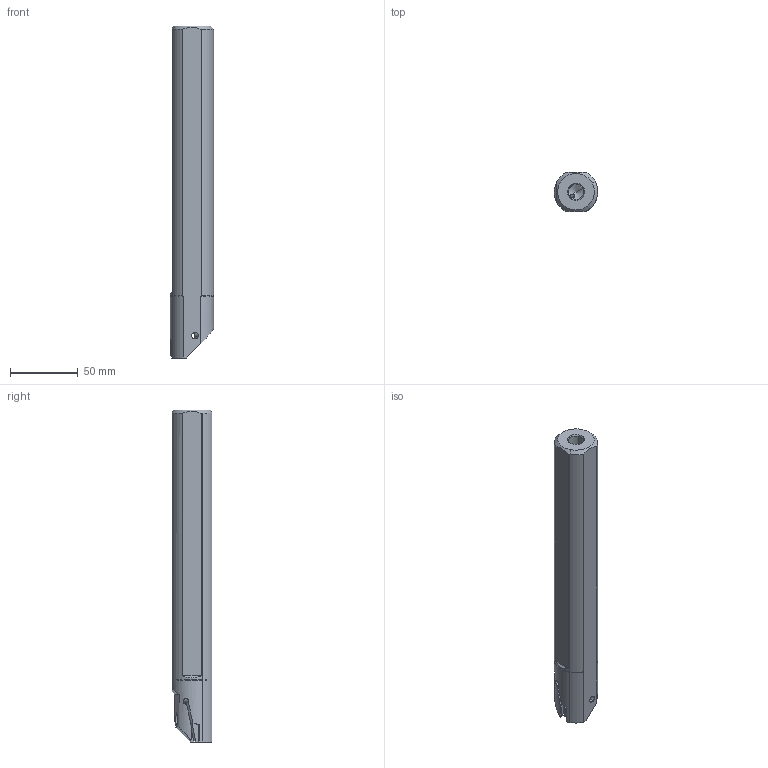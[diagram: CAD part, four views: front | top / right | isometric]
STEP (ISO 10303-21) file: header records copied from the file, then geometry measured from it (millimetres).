
FILE_DESCRIPTION(('CATIA V5 STEP','CAx-IF Rec.Pracs.--- Model Styling and Organization---1.2---2011-12-15'),'2;1');
FILE_NAME('I:\isr\design\admin8\users\weaam_s\2500335D.stp','2017-10-31T12:47:18+00:00',('none'),('none'),'CATIA Version 5 Release 21 SP 5 (IN-10)','CATIA V5 STEP AP214','none');
FILE_SCHEMA(('AUTOMOTIVE_DESIGN { 1 0 10303 214 1 1 1 1 }'));
Length unit declared in the file: millimetre
Products named in the file (1): HFIR 32MC
Bounding box: 32 x 29 x 244.7 mm (x, y, z)
Volume: 154410 mm3; surface area: 34591.2 mm2
Topology: 1 solids, 1 shells, 64 faces, 173 edges, 110 vertices
Faces by surface type: cylinder 29, plane 22, cone 8, torus 4, revolution 1
Entity records: 2165 total; most frequent: CARTESIAN_POINT 727, ORIENTED_EDGE 342, DIRECTION 204, EDGE_CURVE 171, VERTEX_POINT 110, VECTOR 83, LINE 83, AXIS2_PLACEMENT_3D 81
